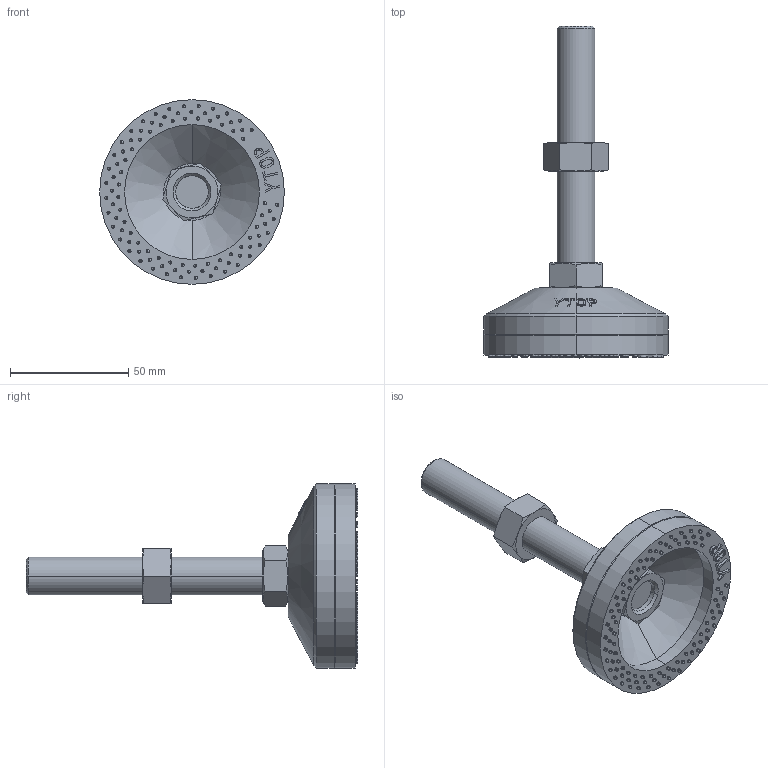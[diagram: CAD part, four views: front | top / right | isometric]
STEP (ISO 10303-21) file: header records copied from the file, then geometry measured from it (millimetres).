
FILE_DESCRIPTION (( 'STEP AP203' ), '1' );
FILE_NAME ('AH-80-16100-TPU.STEP', '2020-09-09T03:55:55', ( '' ), ( '' ), 'SwSTEP 2.0', 'SolidWorks 2016', '' );
FILE_SCHEMA (( 'CONFIG_CONTROL_DESIGN' ));
Length unit declared in the file: millimetre
Products named in the file (6): AH-80-16100-TPU; 脚垫调节六角螺母M16; 脚垫锁紧六角薄螺母M16; AH-80蝶菜 ; 傲郈蹟裝M16炵蹈_M16X100; AH-80菁釱 
Assembly tree (5 placements, depth 2):
  AH-80-16100-TPU
    AH-80蝶菜 
    AH-80菁釱 
    脚垫锁紧六角薄螺母M16
    脚垫调节六角螺母M16
    傲郈蹟裝M16炵蹈_M16X100
Bounding box: 78 x 140.2 x 78 mm (x, y, z)
Volume: 106318.3 mm3; surface area: 37326 mm2
Topology: 5 solids, 5 shells, 579 faces, 1608 edges, 961 vertices
Faces by surface type: cylinder 208, sphere 190, cone 66, plane 65, bspline 50
Entity records: 20925 total; most frequent: CARTESIAN_POINT 7737, DIRECTION 2766, ORIENTED_EDGE 2456, EDGE_CURVE 1228, AXIS2_PLACEMENT_3D 1207, VERTEX_POINT 771, EDGE_LOOP 699, CIRCLE 670
